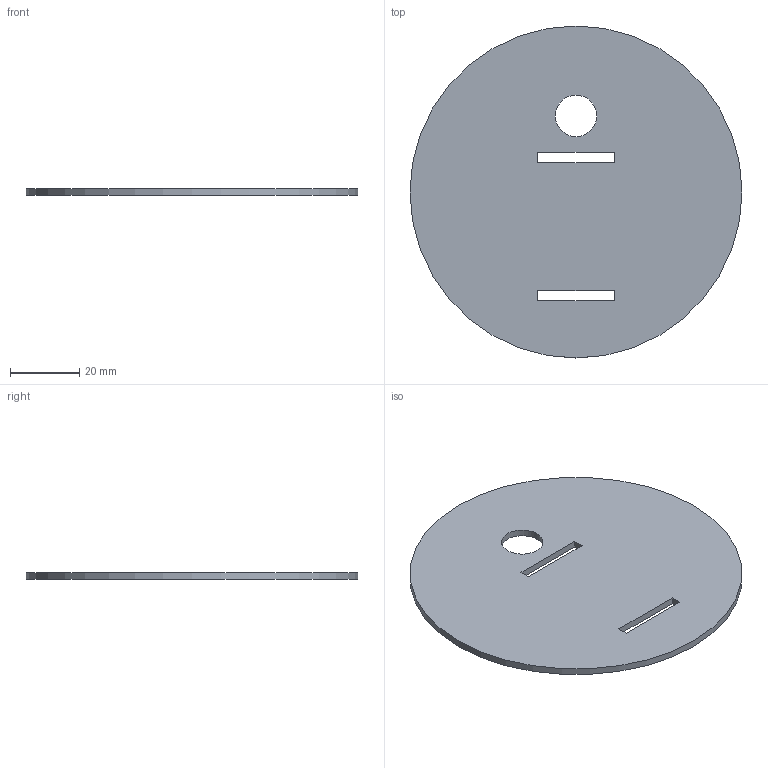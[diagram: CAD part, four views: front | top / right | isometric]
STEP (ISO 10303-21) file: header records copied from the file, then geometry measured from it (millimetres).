
FILE_DESCRIPTION(('FreeCAD Model'),'2;1');
FILE_NAME('Open CASCADE Shape Model','2026-10-22T12:16:51',('FreeCAD'),( 'FreeCAD'),'Open CASCADE STEP processor 8.0','FreeCAD','Unknown');
FILE_SCHEMA(('AUTOMOTIVE_DESIGN { 1 0 10303 214 1 1 1 1 }'));
Length unit declared in the file: millimetre
Products named in the file (1): Open CASCADE STEP translator 8.0 3
Bounding box: 96 x 96 x 2 mm (x, y, z)
Volume: 13986.3 mm3; surface area: 14864.8 mm2
Topology: 1 solids, 1 shells, 12 faces, 30 edges, 20 vertices
Faces by surface type: plane 10, cylinder 2
Full cylindrical faces by diameter (mm): 12 x1, 96 x1
Entity records: 380 total; most frequent: CARTESIAN_POINT 63, DIRECTION 60, ORIENTED_EDGE 60, EDGE_CURVE 30, LINE 26, VECTOR 26, VERTEX_POINT 20, FACE_BOUND 18
